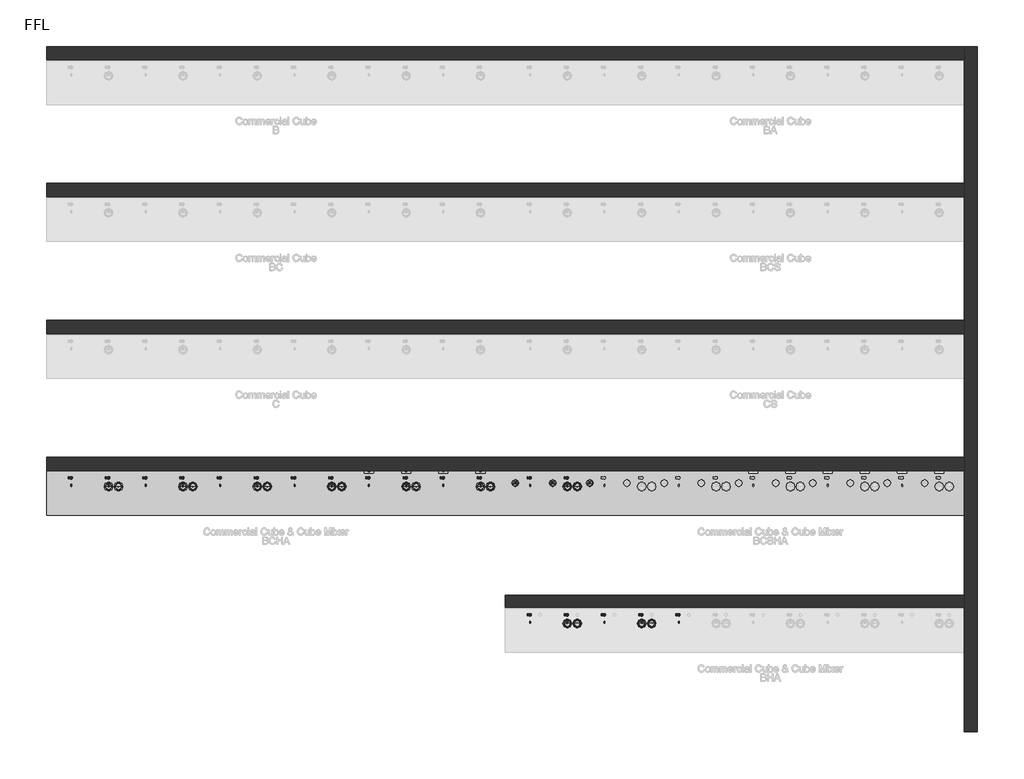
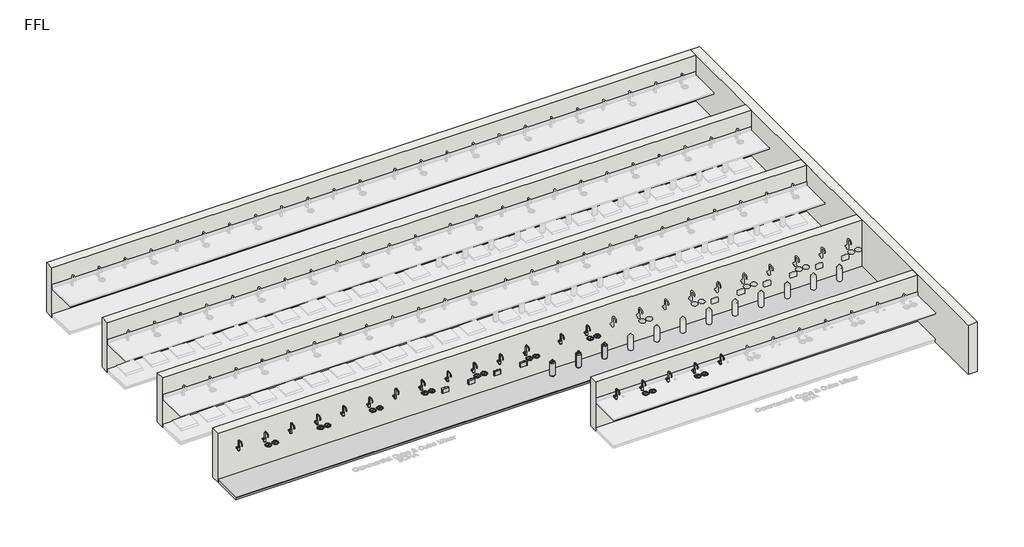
# One storey, part 1 of 14: 44 flow terminals, 6 walls, 1 furniture element.
"""IFC4 building model written with IfcOpenShell, lengths in millimetres."""

from ifc_helpers import new_model, si_unit, origin, origin_with_axes, place, context, project, spatial, polyline, outline, extrude, faceted_brep, transform, mapped, element, save
from components import flow_terminal_100_people_gold_0dc622b1, bright_chrome_cb32e6d9, bright_chrome_743c02cf, co2_gas_cylinder_20234e14, generic_plinth_900mm_f287d53f

model = new_model("IFC4")

# Units and contexts
model_context = context("Model", 3, world=origin())
ifc_project = project(units=[si_unit("LENGTHUNIT", "METRE", prefix="MILLI")], contexts=[model_context])

# Site, building, storey
site = spatial("IfcSite", under=ifc_project)
building = spatial("IfcBuilding", under=site)
storey = spatial("IfcBuildingStorey", under=building, Name="FFL", Elevation=0.0)

# Flow terminals
placement = place(None, origin())
flow_terminal_100_people_gold_shape = flow_terminal_100_people_gold_0dc622b1(model_context)
element("IfcFlowTerminal", 1, ObjectType="PlumFixt_Zip Commercial_Cube_Cube Mixer_BCHA : 100 People - Matte Black", at=placement, inside=storey, context=model_context, shape_type="MappedRepresentation", body=[
    mapped(flow_terminal_100_people_gold_shape, transform((-470.7352929, -696.2606696, 0.0), x_axis=(1.0, 0.0, 0.0), y_axis=(0.0, 1.0, 0.0), z_axis=(0.0, 0.0, 1.0))),
])
element("IfcFlowTerminal", 2, ObjectType="PlumFixt_Zip Commercial_Cube_Cube Mixer_BCHA : 100 People - Nickel", at=placement, inside=storey, context=model_context, shape_type="MappedRepresentation", body=[
    mapped(flow_terminal_100_people_gold_shape, transform((279.2647071, -696.2606696, 0.0), x_axis=(1.0, 0.0, 0.0), y_axis=(0.0, 1.0, 0.0), z_axis=(0.0, 0.0, 1.0))),
])
element("IfcFlowTerminal", 3, ObjectType="PlumFixt_Zip Commercial_Cube_Cube Mixer_BCHA : 100 People - Platinum", at=placement, inside=storey, context=model_context, shape_type="MappedRepresentation", body=[
    mapped(flow_terminal_100_people_gold_shape, transform((1029.2647071, -696.2606696, 0.0), x_axis=(1.0, 0.0, 0.0), y_axis=(0.0, 1.0, 0.0), z_axis=(0.0, 0.0, 1.0))),
])
element("IfcFlowTerminal", 4, ObjectType="PlumFixt_Zip Commercial_Cube_Cube Mixer_BCHA : 100 People - Rose Gold", at=placement, inside=storey, context=model_context, shape_type="MappedRepresentation", body=[
    mapped(flow_terminal_100_people_gold_shape, transform((1779.2647071, -696.2606696, 0.0), x_axis=(1.0, 0.0, 0.0), y_axis=(0.0, 1.0, 0.0), z_axis=(0.0, 0.0, 1.0))),
])
bright_chrome_shape = bright_chrome_cb32e6d9(model_context)
element("IfcFlowTerminal", 5, ObjectType="z_PlumFixt_Zip_Cube : Bright Chrome", at=placement, inside=storey, context=model_context, shape_type="MappedRepresentation", body=[
    mapped(bright_chrome_shape, transform((-6487.7352929, -668.2606696, 900.0), x_axis=(1.0000000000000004, 0.0, 0.0), y_axis=(0.0, 1.0000000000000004, 0.0), z_axis=(0.0, 0.0, 1.0))),
])
element("IfcFlowTerminal", 6, ObjectType="z_PlumFixt_Zip_Cube : Bright Chrome", at=placement, inside=storey, context=model_context, shape_type="MappedRepresentation", body=[
    mapped(bright_chrome_shape, transform((2762.2647071, -668.2606696, 900.0), x_axis=(1.0000000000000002, 0.0, 0.0), y_axis=(0.0, 1.0000000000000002, 0.0), z_axis=(0.0, 0.0, 1.0))),
])
element("IfcFlowTerminal", 7, ObjectType="z_PlumFixt_Zip_Cube : Bright Chrome", at=placement, inside=storey, context=model_context, shape_type="MappedRepresentation", body=[
    mapped(bright_chrome_shape, transform((2762.2647071, -3429.2606696, 900.0), x_axis=(1.0000000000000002, 0.0, 0.0), y_axis=(0.0, 1.0000000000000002, 0.0), z_axis=(0.0, 0.0, 1.0))),
])
bright_chrome_2_shape = bright_chrome_743c02cf(model_context)
element("IfcFlowTerminal", 8, ObjectType="z_PlumFixt_Zip_Font : Bright Chrome", at=placement, inside=storey, context=model_context, shape_type="MappedRepresentation", body=[
    mapped(bright_chrome_2_shape, transform((-5520.7352929, -767.7606696, 900.0), x_axis=(0.9999999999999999, 0.0, 0.0), y_axis=(0.0, 0.9999999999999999, 0.0), z_axis=(0.0, 0.0, 1.0))),
])
element("IfcFlowTerminal", 9, ObjectType="z_PlumFixt_Zip_Font : Bright Chrome", at=placement, inside=storey, context=model_context, shape_type="MappedRepresentation", body=[
    mapped(bright_chrome_2_shape, transform((-4020.7352929, -767.7606696, 900.0), x_axis=(0.9999999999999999, 0.0, 0.0), y_axis=(0.0, 0.9999999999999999, 0.0), z_axis=(0.0, 0.0, 1.0))),
])
element("IfcFlowTerminal", 10, ObjectType="z_PlumFixt_Zip_Font : Bright Chrome", at=placement, inside=storey, context=model_context, shape_type="MappedRepresentation", body=[
    mapped(bright_chrome_2_shape, transform((-2520.7352929, -767.7606696, 900.0), x_axis=(0.9999999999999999, 0.0, 0.0), y_axis=(0.0, 0.9999999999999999, 0.0), z_axis=(0.0, 0.0, 1.0))),
])
element("IfcFlowTerminal", 11, ObjectType="z_PlumFixt_Zip_Font : Bright Chrome", at=placement, inside=storey, context=model_context, shape_type="MappedRepresentation", body=[
    mapped(bright_chrome_2_shape, transform((-1020.7352929, -767.7606696, 900.0), x_axis=(0.9999999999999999, 0.0, 0.0), y_axis=(0.0, 0.9999999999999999, 0.0), z_axis=(0.0, 0.0, 1.0))),
])
element("IfcFlowTerminal", 12, ObjectType="z_PlumFixt_Zip_Font : Bright Chrome", at=placement, inside=storey, context=model_context, shape_type="MappedRepresentation", body=[
    mapped(bright_chrome_2_shape, transform((479.2647071, -767.7606696, 900.0), x_axis=(0.9999999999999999, 0.0, 0.0), y_axis=(0.0, 0.9999999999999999, 0.0), z_axis=(0.0, 0.0, 1.0))),
])
element("IfcFlowTerminal", 13, ObjectType="z_PlumFixt_Zip_Font : Bright Chrome", at=placement, inside=storey, context=model_context, shape_type="MappedRepresentation", body=[
    mapped(bright_chrome_2_shape, transform((1979.2647071, -767.7606696, 900.0), x_axis=(0.9999999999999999, 0.0, 0.0), y_axis=(0.0, 0.9999999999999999, 0.0), z_axis=(0.0, 0.0, 1.0))),
])
element("IfcFlowTerminal", 14, ObjectType="z_PlumFixt_Zip_Font : Bright Chrome", at=placement, inside=storey, context=model_context, shape_type="MappedRepresentation", body=[
    mapped(bright_chrome_2_shape, transform((3729.2647071, -767.7606696, 900.0), x_axis=(1.0000000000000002, 0.0, 0.0), y_axis=(0.0, 1.0000000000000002, 0.0), z_axis=(0.0, 0.0, 1.0))),
])
element("IfcFlowTerminal", 15, ObjectType="z_PlumFixt_Zip_Font : Bright Chrome", at=placement, inside=storey, context=model_context, shape_type="MappedRepresentation", body=[
    mapped(bright_chrome_2_shape, transform((3729.2647071, -3528.7606696, 900.0), x_axis=(1.0000000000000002, 0.0, 0.0), y_axis=(0.0, 1.0000000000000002, 0.0), z_axis=(0.0, 0.0, 1.0))),
])
element("IfcFlowTerminal", 16, ObjectType="z_PlumFixt_Zip_Font : Bright Chrome", at=placement, inside=storey, context=model_context, shape_type="MappedRepresentation", body=[
    mapped(bright_chrome_2_shape, transform((5229.2647071, -3528.7606696, 900.0), x_axis=(1.0000000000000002, 0.0, 0.0), y_axis=(0.0, 1.0000000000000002, 0.0), z_axis=(0.0, 0.0, 1.0))),
])
element("IfcFlowTerminal", 17, ObjectType="z_PlumFixt_Zip_Font : Brushed Chrome", at=placement, inside=storey, context=model_context, shape_type="MappedRepresentation", body=[
    mapped(bright_chrome_2_shape, transform((-5720.7352929, -767.7606696, 900.0), x_axis=(1.0000000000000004, 0.0, 0.0), y_axis=(0.0, 1.0000000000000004, 0.0), z_axis=(0.0, 0.0, 1.0))),
])
element("IfcFlowTerminal", 18, ObjectType="z_PlumFixt_Zip_Font : Brushed Chrome", at=placement, inside=storey, context=model_context, shape_type="MappedRepresentation", body=[
    mapped(bright_chrome_2_shape, transform((-4220.7352929, -767.7606696, 900.0), x_axis=(1.0000000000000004, 0.0, 0.0), y_axis=(0.0, 1.0000000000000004, 0.0), z_axis=(0.0, 0.0, 1.0))),
])
element("IfcFlowTerminal", 19, ObjectType="z_PlumFixt_Zip_Font : Brushed Chrome", at=placement, inside=storey, context=model_context, shape_type="MappedRepresentation", body=[
    mapped(bright_chrome_2_shape, transform((-2720.7352929, -767.7606696, 900.0), x_axis=(1.0000000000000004, 0.0, 0.0), y_axis=(0.0, 1.0000000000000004, 0.0), z_axis=(0.0, 0.0, 1.0))),
])
element("IfcFlowTerminal", 20, ObjectType="z_PlumFixt_Zip_Font : Brushed Chrome", at=placement, inside=storey, context=model_context, shape_type="MappedRepresentation", body=[
    mapped(bright_chrome_2_shape, transform((-1220.7352929, -767.7606696, 900.0), x_axis=(1.0000000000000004, 0.0, 0.0), y_axis=(0.0, 1.0000000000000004, 0.0), z_axis=(0.0, 0.0, 1.0))),
])
element("IfcFlowTerminal", 21, ObjectType="z_PlumFixt_Zip_Font : Brushed Chrome", at=placement, inside=storey, context=model_context, shape_type="MappedRepresentation", body=[
    mapped(bright_chrome_2_shape, transform((279.2647071, -767.7606696, 900.0), x_axis=(1.0000000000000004, 0.0, 0.0), y_axis=(0.0, 1.0000000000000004, 0.0), z_axis=(0.0, 0.0, 1.0))),
])
element("IfcFlowTerminal", 22, ObjectType="z_PlumFixt_Zip_Font : Brushed Chrome", at=placement, inside=storey, context=model_context, shape_type="MappedRepresentation", body=[
    mapped(bright_chrome_2_shape, transform((1779.2647071, -767.7606696, 900.0), x_axis=(1.0000000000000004, 0.0, 0.0), y_axis=(0.0, 1.0000000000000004, 0.0), z_axis=(0.0, 0.0, 1.0))),
])
element("IfcFlowTerminal", 23, ObjectType="z_PlumFixt_Zip_Font : Brushed Chrome", at=placement, inside=storey, context=model_context, shape_type="MappedRepresentation", body=[
    mapped(bright_chrome_2_shape, transform((3529.2647071, -767.7606696, 900.0), x_axis=(1.0000000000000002, 0.0, 0.0), y_axis=(0.0, 1.0000000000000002, 0.0), z_axis=(0.0, 0.0, 1.0))),
])
element("IfcFlowTerminal", 24, ObjectType="z_PlumFixt_Zip_Font : Brushed Chrome", at=placement, inside=storey, context=model_context, shape_type="MappedRepresentation", body=[
    mapped(bright_chrome_2_shape, transform((3529.2647071, -3528.7606696, 900.0), x_axis=(1.0000000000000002, 0.0, 0.0), y_axis=(0.0, 1.0000000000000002, 0.0), z_axis=(0.0, 0.0, 1.0))),
])
element("IfcFlowTerminal", 25, ObjectType="z_PlumFixt_Zip_Font : Brushed Chrome", at=placement, inside=storey, context=model_context, shape_type="MappedRepresentation", body=[
    mapped(bright_chrome_2_shape, transform((5029.2647071, -3528.7606696, 900.0), x_axis=(1.0000000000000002, 0.0, 0.0), y_axis=(0.0, 1.0000000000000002, 0.0), z_axis=(0.0, 0.0, 1.0))),
])
element("IfcFlowTerminal", 26, ObjectType="z_PlumFixt_Zip_Cube : Brushed Chrome", at=placement, inside=storey, context=model_context, shape_type="MappedRepresentation", body=[
    mapped(bright_chrome_shape, transform((-5737.7352929, -668.2606696, 900.0), x_axis=(1.0000000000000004, 0.0, 0.0), y_axis=(0.0, 1.0000000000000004, 0.0), z_axis=(0.0, 0.0, 1.0))),
])
element("IfcFlowTerminal", 27, ObjectType="z_PlumFixt_Zip_Cube : Brushed Chrome", at=placement, inside=storey, context=model_context, shape_type="MappedRepresentation", body=[
    mapped(bright_chrome_shape, transform((3512.2647071, -668.2606696, 900.0), x_axis=(1.0000000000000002, 0.0, 0.0), y_axis=(0.0, 1.0000000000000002, 0.0), z_axis=(0.0, 0.0, 1.0))),
])
element("IfcFlowTerminal", 28, ObjectType="z_PlumFixt_Zip_Cube : Brushed Chrome", at=placement, inside=storey, context=model_context, shape_type="MappedRepresentation", body=[
    mapped(bright_chrome_shape, transform((3512.2647071, -3429.2606696, 900.0), x_axis=(1.0000000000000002, 0.0, 0.0), y_axis=(0.0, 1.0000000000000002, 0.0), z_axis=(0.0, 0.0, 1.0))),
])
element("IfcFlowTerminal", 29, ObjectType="z_PlumFixt_Zip_Cube : Brushed Gold", at=placement, inside=storey, context=model_context, shape_type="MappedRepresentation", body=[
    mapped(bright_chrome_shape, transform((4262.2647071, -3429.2606696, 900.0), x_axis=(1.0000000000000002, 0.0, 0.0), y_axis=(0.0, 1.0000000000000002, 0.0), z_axis=(0.0, 0.0, 1.0))),
])
element("IfcFlowTerminal", 30, ObjectType="z_PlumFixt_Zip_Cube : Brushed Nickel", at=placement, inside=storey, context=model_context, shape_type="MappedRepresentation", body=[
    mapped(bright_chrome_shape, transform((-4237.7352929, -668.2606696, 900.0), x_axis=(1.0000000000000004, 0.0, 0.0), y_axis=(0.0, 1.0000000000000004, 0.0), z_axis=(0.0, 0.0, 1.0))),
])
element("IfcFlowTerminal", 31, ObjectType="z_PlumFixt_Zip_Cube : Brushed Nickel", at=placement, inside=storey, context=model_context, shape_type="MappedRepresentation", body=[
    mapped(bright_chrome_shape, transform((5012.2647071, -3429.2606696, 900.0), x_axis=(1.0000000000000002, 0.0, 0.0), y_axis=(0.0, 1.0000000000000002, 0.0), z_axis=(0.0, 0.0, 1.0))),
])
element("IfcFlowTerminal", 32, ObjectType="z_PlumFixt_Zip_Cube : Brushed Nickel", at=placement, inside=storey, context=model_context, shape_type="MappedRepresentation", body=[
    mapped(bright_chrome_shape, transform((-4987.7352929, -668.2606696, 900.0), x_axis=(1.0000000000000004, 0.0, 0.0), y_axis=(0.0, 1.0000000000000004, 0.0), z_axis=(0.0, 0.0, 1.0))),
])
element("IfcFlowTerminal", 33, ObjectType="z_PlumFixt_Zip_Cube : Brushed Rose Gold", at=placement, inside=storey, context=model_context, shape_type="MappedRepresentation", body=[
    mapped(bright_chrome_shape, transform((-3487.7352929, -668.2606696, 900.0), x_axis=(1.0000000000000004, 0.0, 0.0), y_axis=(0.0, 1.0000000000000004, 0.0), z_axis=(0.0, 0.0, 1.0))),
])
element("IfcFlowTerminal", 34, ObjectType="z_PlumFixt_Zip_Cube : Brushed Rose Gold", at=placement, inside=storey, context=model_context, shape_type="MappedRepresentation", body=[
    mapped(bright_chrome_shape, transform((5762.2647071, -3429.2606696, 900.0), x_axis=(1.0000000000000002, 0.0, 0.0), y_axis=(0.0, 1.0000000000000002, 0.0), z_axis=(0.0, 0.0, 1.0))),
])
co2_gas_cylinder_shape = co2_gas_cylinder_20234e14(model_context)
element("IfcFlowTerminal", 35, ObjectType="z_PlumFixt_Zip_CO2 Gas Cylinder : CO2 Gas Cylinder", at=placement, inside=storey, context=model_context, shape_type="MappedRepresentation", body=[
    mapped(co2_gas_cylinder_shape, transform((2484.2647071, -769.7606696, 100.0), x_axis=(-1.0, 0.0, 0.0), y_axis=(0.0, -1.0, 0.0), z_axis=(0.0, 0.0, 1.0))),
])
element("IfcFlowTerminal", 36, ObjectType="z_PlumFixt_Zip_CO2 Gas Cylinder : CO2 Gas Cylinder", at=placement, inside=storey, context=model_context, shape_type="MappedRepresentation", body=[
    mapped(co2_gas_cylinder_shape, transform((3234.2647071, -769.7606696, 100.0), x_axis=(-1.0, 0.0, 0.0), y_axis=(0.0, -1.0, 0.0), z_axis=(0.0, 0.0, 1.0))),
])
element("IfcFlowTerminal", 37, ObjectType="z_PlumFixt_Zip_CO2 Gas Cylinder : CO2 Gas Cylinder", at=placement, inside=storey, context=model_context, shape_type="MappedRepresentation", body=[
    mapped(co2_gas_cylinder_shape, transform((3984.2647071, -769.7606696, 100.0), x_axis=(-1.0, 0.0, 0.0), y_axis=(0.0, -1.0, 0.0), z_axis=(0.0, 0.0, 1.0))),
])
element("IfcFlowTerminal", 38, ObjectType="z_PlumFixt_Zip_Cube : Gloss Black", at=placement, inside=storey, context=model_context, shape_type="MappedRepresentation", body=[
    mapped(bright_chrome_shape, transform((-2737.7352929, -668.2606696, 900.0), x_axis=(1.0000000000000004, 0.0, 0.0), y_axis=(0.0, 1.0000000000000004, 0.0), z_axis=(0.0, 0.0, 1.0))),
])
element("IfcFlowTerminal", 39, ObjectType="z_PlumFixt_Zip_Cube : Gold", at=placement, inside=storey, context=model_context, shape_type="MappedRepresentation", body=[
    mapped(bright_chrome_shape, transform((-1987.7352929, -668.2606696, 900.0), x_axis=(1.0000000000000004, 0.0, 0.0), y_axis=(0.0, 1.0000000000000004, 0.0), z_axis=(0.0, 0.0, 1.0))),
])
element("IfcFlowTerminal", 40, ObjectType="z_PlumFixt_Zip_Cube : Gunmetal", at=placement, inside=storey, context=model_context, shape_type="MappedRepresentation", body=[
    mapped(bright_chrome_shape, transform((-1237.7352929, -668.2606696, 900.0), x_axis=(1.0000000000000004, 0.0, 0.0), y_axis=(0.0, 1.0000000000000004, 0.0), z_axis=(0.0, 0.0, 1.0))),
])
element("IfcFlowTerminal", 41, ObjectType="z_PlumFixt_Zip_Cube : Matte Black", at=placement, inside=storey, context=model_context, shape_type="MappedRepresentation", body=[
    mapped(bright_chrome_shape, transform((-487.7352929, -668.2606696, 900.0), x_axis=(1.0000000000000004, 0.0, 0.0), y_axis=(0.0, 1.0000000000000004, 0.0), z_axis=(0.0, 0.0, 1.0))),
])
element("IfcFlowTerminal", 42, ObjectType="z_PlumFixt_Zip_Cube : Nickel", at=placement, inside=storey, context=model_context, shape_type="MappedRepresentation", body=[
    mapped(bright_chrome_shape, transform((262.2647071, -668.2606696, 900.0), x_axis=(1.0000000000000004, 0.0, 0.0), y_axis=(0.0, 1.0000000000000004, 0.0), z_axis=(0.0, 0.0, 1.0))),
])
element("IfcFlowTerminal", 43, ObjectType="z_PlumFixt_Zip_Cube : Platinum", at=placement, inside=storey, context=model_context, shape_type="MappedRepresentation", body=[
    mapped(bright_chrome_shape, transform((1012.2647071, -668.2606696, 900.0), x_axis=(1.0000000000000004, 0.0, 0.0), y_axis=(0.0, 1.0000000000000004, 0.0), z_axis=(0.0, 0.0, 1.0))),
])
element("IfcFlowTerminal", 44, ObjectType="z_PlumFixt_Zip_Cube : Rose Gold", at=placement, inside=storey, context=model_context, shape_type="MappedRepresentation", body=[
    mapped(bright_chrome_shape, transform((1762.2647071, -668.2606696, 900.0), x_axis=(1.0000000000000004, 0.0, 0.0), y_axis=(0.0, 1.0000000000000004, 0.0), z_axis=(0.0, 0.0, 1.0))),
])

# Furniture
generic_plinth_900mm_shape = generic_plinth_900mm_f287d53f(model_context)
element("IfcFurniture", 45, ObjectType="Generic Plinth : 900mm", at=placement, inside=storey, context=model_context, shape_type="MappedRepresentation", body=[
    mapped(generic_plinth_900mm_shape, transform((2261.5270022, -431.7606696, 0.0), x_axis=(1.0, 0.0, 0.0), y_axis=(0.0, 1.0, 0.0), z_axis=(0.0, 0.0, 1.0))),
])

# Walls
element("IfcWall", 46, ObjectType="Brick veneer - 250 timber", at=placement, inside=storey, context=model_context, shape_type="SweptSolid", body=[
    extrude(outline(polyline([(2280.2647071, -2941.7606696), (11530.2647071, -2941.7606696), (11530.2647071, -3191.7606696), (2280.2647071, -3191.7606696), (2280.2647071, -2941.7606696)])), origin_with_axes(), (0.0, 0.0, 1.0), 1500.0),
])
element("IfcWall", 47, ObjectType="Double brick - 270", at=placement, inside=storey, context=model_context, shape_type="Brep", body=[
    faceted_brep([(11800.2647071, -5701.7606696, 0.0), (11800.2647071, 8118.2393304, 0.0), (11800.2647071, 8118.2393304, 1500.0), (11800.2647071, -5701.7606696, 1500.0), (11530.2647071, -5701.7606696, 0.0), (11530.2647071, -5701.7606696, 1500.0), (11530.2647071, -3191.7606696, 1500.0), (11530.2647071, -2941.7606696, 1500.0), (11530.2647071, -431.7606696, 1500.0), (11530.2647071, -161.7606696, 1500.0), (11530.2647071, 2328.2393304, 1500.0), (11530.2647071, 2598.2393304, 1500.0), (11530.2647071, 5088.2393304, 1500.0), (11530.2647071, 5358.2393304, 1500.0), (11530.2647071, 7848.2393304, 1500.0), (11530.2647071, 8118.2393304, 1500.0), (11530.2647071, 8118.2393304, 0.0), (11530.2647071, 7848.2393304, 0.0), (11530.2647071, 5358.2393304, 0.0), (11530.2647071, 5088.2393304, 0.0), (11530.2647071, 2598.2393304, 0.0), (11530.2647071, 2328.2393304, 0.0), (11530.2647071, -161.7606696, 0.0), (11530.2647071, -431.7606696, 0.0), (11530.2647071, -2941.7606696, 0.0), (11530.2647071, -3191.7606696, 0.0)], [[[0, 1, 2, 3]], [[4, 5, 6, 7, 8, 9, 10, 11, 12, 13, 14, 15, 16, 17, 18, 19, 20, 21, 22, 23, 24, 25]], [[1, 0, 4, 25, 24, 23, 22, 21, 20, 19, 18, 17, 16]], [[3, 2, 15, 14, 13, 12, 11, 10, 9, 8, 7, 6, 5]], [[0, 3, 5, 4]], [[2, 1, 16, 15]]]),
])
element("IfcWall", 48, ObjectType="Double brick - 270", at=placement, inside=storey, context=model_context, shape_type="SweptSolid", body=[
    extrude(outline(polyline([(11530.2647071, 7848.2393304), (-6969.7352929, 7848.2393304), (-6969.7352929, 8118.2393304), (11530.2647071, 8118.2393304), (11530.2647071, 7848.2393304)])), origin_with_axes(), (0.0, 0.0, 1.0), 1500.0),
])
element("IfcWall", 49, ObjectType="Double brick - 270", at=placement, inside=storey, context=model_context, shape_type="SweptSolid", body=[
    extrude(outline(polyline([(11530.2647071, 5088.2393304), (-6969.7352929, 5088.2393304), (-6969.7352929, 5358.2393304), (11530.2647071, 5358.2393304), (11530.2647071, 5088.2393304)])), origin_with_axes(), (0.0, 0.0, 1.0), 1500.0),
])
element("IfcWall", 50, ObjectType="Double brick - 270", at=placement, inside=storey, context=model_context, shape_type="SweptSolid", body=[
    extrude(outline(polyline([(11530.2647071, 2328.2393304), (-6969.7352929, 2328.2393304), (-6969.7352929, 2598.2393304), (11530.2647071, 2598.2393304), (11530.2647071, 2328.2393304)])), origin_with_axes(), (0.0, 0.0, 1.0), 1500.0),
])
element("IfcWall", 51, ObjectType="Double brick - 270", at=placement, inside=storey, context=model_context, shape_type="SweptSolid", body=[
    extrude(outline(polyline([(11530.2647071, -431.7606696), (-6969.7352929, -431.7606696), (-6969.7352929, -161.7606696), (11530.2647071, -161.7606696), (11530.2647071, -431.7606696)])), origin_with_axes(), (0.0, 0.0, 1.0), 1500.0),
])

save(model, "model.ifc")
